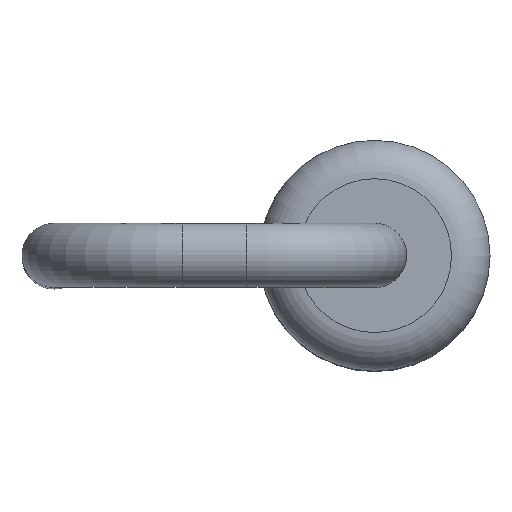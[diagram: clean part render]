
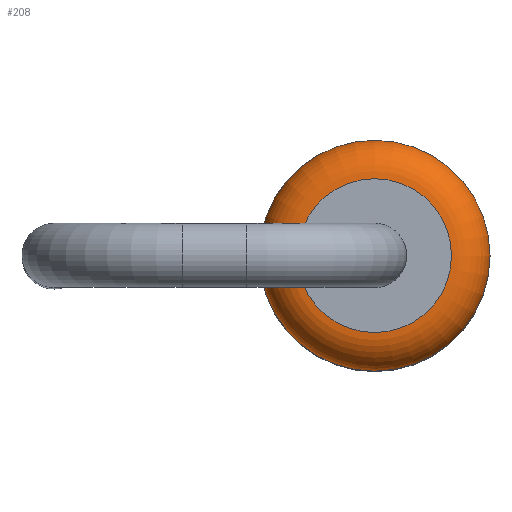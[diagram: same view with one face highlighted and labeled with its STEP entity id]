
A CAD part, top view. The second image highlights one B-rep face of the part: STEP entity #208.
In plain terms, the highlighted toroidal (fillet/blend) face has major radius 0.6 mm and minor radius 0.3 mm.
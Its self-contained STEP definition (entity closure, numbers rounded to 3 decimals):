
#208=ADVANCED_FACE('',(#377,#379),#381,.T.);
#377=FACE_OUTER_BOUND('',#378,.T.);
#378=EDGE_LOOP('',(#468));
#379=FACE_OUTER_BOUND('',#380,.T.);
#380=EDGE_LOOP('',(#469));
#381=TOROIDAL_SURFACE('',#382,0.6,0.3);
#382=AXIS2_PLACEMENT_3D('',#383,#384,#385);
#383=CARTESIAN_POINT('',(0.,0.,1.35));
#384=DIRECTION('',(0.,0.,1.));
#385=DIRECTION('',(1.,0.,0.));
#468=ORIENTED_EDGE('',*,*,#493,.T.);
#469=ORIENTED_EDGE('',*,*,#494,.F.);
#493=EDGE_CURVE('',#521,#521,#522,.T.);
#494=EDGE_CURVE('',#523,#523,#524,.T.);
#521=VERTEX_POINT('',#587);
#522=CIRCLE('',#588,0.9);
#523=VERTEX_POINT('',#592);
#524=CIRCLE('',#593,0.6);
#587=CARTESIAN_POINT('',(0.9,0.,1.35));
#588=AXIS2_PLACEMENT_3D('',#589,#590,#591);
#589=CARTESIAN_POINT('',(0.,0.,1.35));
#590=DIRECTION('',(0.,0.,1.));
#591=DIRECTION('',(1.,0.,0.));
#592=CARTESIAN_POINT('',(0.6,0.,1.65));
#593=AXIS2_PLACEMENT_3D('',#594,#595,#596);
#594=CARTESIAN_POINT('',(0.,0.,1.65));
#595=DIRECTION('',(0.,0.,1.));
#596=DIRECTION('',(1.,0.,0.));
